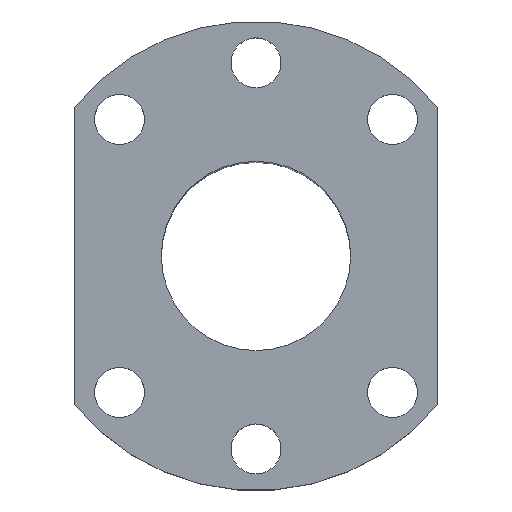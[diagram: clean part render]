
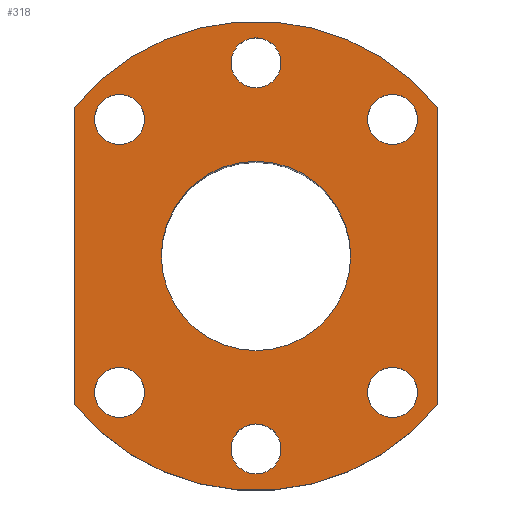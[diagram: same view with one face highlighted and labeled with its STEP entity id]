
A CAD part, top view. The second image highlights one B-rep face of the part: STEP entity #318.
In plain terms, the highlighted planar face has unit normal (0, 0, 1).
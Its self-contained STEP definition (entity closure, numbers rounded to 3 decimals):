
#23=FACE_BOUND('',#73,.T.);
#24=FACE_BOUND('',#74,.T.);
#25=FACE_BOUND('',#75,.T.);
#26=FACE_BOUND('',#76,.T.);
#27=FACE_BOUND('',#77,.T.);
#28=FACE_BOUND('',#78,.T.);
#29=FACE_BOUND('',#79,.T.);
#34=PLANE('',#379);
#49=FACE_OUTER_BOUND('',#72,.T.);
#72=EDGE_LOOP('',(#277,#278,#279,#280));
#73=EDGE_LOOP('',(#281,#282));
#74=EDGE_LOOP('',(#283,#284));
#75=EDGE_LOOP('',(#285,#286));
#76=EDGE_LOOP('',(#287,#288));
#77=EDGE_LOOP('',(#289,#290));
#78=EDGE_LOOP('',(#291,#292));
#79=EDGE_LOOP('',(#293));
#92=LINE('',#559,#108);
#95=LINE('',#566,#111);
#108=VECTOR('',#468,10.);
#111=VECTOR('',#477,10.);
#112=CIRCLE('',#340,3.3);
#113=CIRCLE('',#341,3.3);
#115=CIRCLE('',#344,3.3);
#116=CIRCLE('',#345,3.3);
#118=CIRCLE('',#348,3.3);
#119=CIRCLE('',#349,3.3);
#121=CIRCLE('',#352,3.3);
#122=CIRCLE('',#353,3.3);
#124=CIRCLE('',#356,3.3);
#125=CIRCLE('',#357,3.3);
#127=CIRCLE('',#360,3.3);
#128=CIRCLE('',#361,3.3);
#130=CIRCLE('',#364,12.5);
#136=CIRCLE('',#374,31.);
#137=CIRCLE('',#377,31.);
#138=VERTEX_POINT('',#482);
#139=VERTEX_POINT('',#483);
#141=VERTEX_POINT('',#490);
#142=VERTEX_POINT('',#491);
#144=VERTEX_POINT('',#498);
#145=VERTEX_POINT('',#499);
#147=VERTEX_POINT('',#506);
#148=VERTEX_POINT('',#507);
#150=VERTEX_POINT('',#514);
#151=VERTEX_POINT('',#515);
#153=VERTEX_POINT('',#522);
#154=VERTEX_POINT('',#523);
#156=VERTEX_POINT('',#530);
#164=VERTEX_POINT('',#552);
#165=VERTEX_POINT('',#554);
#166=VERTEX_POINT('',#558);
#167=VERTEX_POINT('',#562);
#168=EDGE_CURVE('',#138,#139,#112,.T.);
#169=EDGE_CURVE('',#139,#138,#113,.T.);
#172=EDGE_CURVE('',#141,#142,#115,.T.);
#173=EDGE_CURVE('',#142,#141,#116,.T.);
#176=EDGE_CURVE('',#144,#145,#118,.T.);
#177=EDGE_CURVE('',#145,#144,#119,.T.);
#180=EDGE_CURVE('',#147,#148,#121,.T.);
#181=EDGE_CURVE('',#148,#147,#122,.T.);
#184=EDGE_CURVE('',#150,#151,#124,.T.);
#185=EDGE_CURVE('',#151,#150,#125,.T.);
#188=EDGE_CURVE('',#153,#154,#127,.T.);
#189=EDGE_CURVE('',#154,#153,#128,.T.);
#192=EDGE_CURVE('',#156,#156,#130,.T.);
#203=EDGE_CURVE('',#165,#164,#136,.T.);
#205=EDGE_CURVE('',#166,#165,#92,.T.);
#207=EDGE_CURVE('',#167,#166,#137,.T.);
#209=EDGE_CURVE('',#164,#167,#95,.T.);
#277=ORIENTED_EDGE('',*,*,#209,.T.);
#278=ORIENTED_EDGE('',*,*,#207,.T.);
#279=ORIENTED_EDGE('',*,*,#205,.T.);
#280=ORIENTED_EDGE('',*,*,#203,.T.);
#281=ORIENTED_EDGE('',*,*,#168,.T.);
#282=ORIENTED_EDGE('',*,*,#169,.T.);
#283=ORIENTED_EDGE('',*,*,#172,.T.);
#284=ORIENTED_EDGE('',*,*,#173,.T.);
#285=ORIENTED_EDGE('',*,*,#176,.T.);
#286=ORIENTED_EDGE('',*,*,#177,.T.);
#287=ORIENTED_EDGE('',*,*,#180,.T.);
#288=ORIENTED_EDGE('',*,*,#181,.T.);
#289=ORIENTED_EDGE('',*,*,#184,.T.);
#290=ORIENTED_EDGE('',*,*,#185,.T.);
#291=ORIENTED_EDGE('',*,*,#188,.T.);
#292=ORIENTED_EDGE('',*,*,#189,.T.);
#293=ORIENTED_EDGE('',*,*,#192,.T.);
#318=ADVANCED_FACE('',(#49,#23,#24,#25,#26,#27,#28,#29),#34,.T.);
#340=AXIS2_PLACEMENT_3D('',#484,#384,#385);
#341=AXIS2_PLACEMENT_3D('',#485,#386,#387);
#344=AXIS2_PLACEMENT_3D('',#492,#393,#394);
#345=AXIS2_PLACEMENT_3D('',#493,#395,#396);
#348=AXIS2_PLACEMENT_3D('',#500,#402,#403);
#349=AXIS2_PLACEMENT_3D('',#501,#404,#405);
#352=AXIS2_PLACEMENT_3D('',#508,#411,#412);
#353=AXIS2_PLACEMENT_3D('',#509,#413,#414);
#356=AXIS2_PLACEMENT_3D('',#516,#420,#421);
#357=AXIS2_PLACEMENT_3D('',#517,#422,#423);
#360=AXIS2_PLACEMENT_3D('',#524,#429,#430);
#361=AXIS2_PLACEMENT_3D('',#525,#431,#432);
#364=AXIS2_PLACEMENT_3D('',#531,#438,#439);
#374=AXIS2_PLACEMENT_3D('',#555,#463,#464);
#377=AXIS2_PLACEMENT_3D('',#563,#472,#473);
#379=AXIS2_PLACEMENT_3D('',#567,#478,#479);
#384=DIRECTION('center_axis',(0.,0.,-1.));
#385=DIRECTION('ref_axis',(1.,0.,0.));
#386=DIRECTION('center_axis',(0.,0.,-1.));
#387=DIRECTION('ref_axis',(1.,0.,0.));
#393=DIRECTION('center_axis',(0.,0.,-1.));
#394=DIRECTION('ref_axis',(1.,0.,0.));
#395=DIRECTION('center_axis',(0.,0.,-1.));
#396=DIRECTION('ref_axis',(1.,0.,0.));
#402=DIRECTION('center_axis',(0.,0.,-1.));
#403=DIRECTION('ref_axis',(1.,0.,0.));
#404=DIRECTION('center_axis',(0.,0.,-1.));
#405=DIRECTION('ref_axis',(1.,0.,0.));
#411=DIRECTION('center_axis',(0.,0.,-1.));
#412=DIRECTION('ref_axis',(1.,0.,0.));
#413=DIRECTION('center_axis',(0.,0.,-1.));
#414=DIRECTION('ref_axis',(1.,0.,0.));
#420=DIRECTION('center_axis',(0.,0.,-1.));
#421=DIRECTION('ref_axis',(1.,0.,0.));
#422=DIRECTION('center_axis',(0.,0.,-1.));
#423=DIRECTION('ref_axis',(1.,0.,0.));
#429=DIRECTION('center_axis',(0.,0.,-1.));
#430=DIRECTION('ref_axis',(1.,0.,0.));
#431=DIRECTION('center_axis',(0.,0.,-1.));
#432=DIRECTION('ref_axis',(1.,0.,0.));
#438=DIRECTION('center_axis',(0.,0.,-1.));
#439=DIRECTION('ref_axis',(1.,0.,0.));
#463=DIRECTION('center_axis',(0.,0.,1.));
#464=DIRECTION('ref_axis',(0.774,0.633,0.));
#468=DIRECTION('',(0.,1.,0.));
#472=DIRECTION('center_axis',(0.,0.,1.));
#473=DIRECTION('ref_axis',(-0.774,-0.633,0.));
#477=DIRECTION('',(0.,-1.,0.));
#478=DIRECTION('center_axis',(0.,0.,1.));
#479=DIRECTION('ref_axis',(1.,0.,0.));
#482=CARTESIAN_POINT('',(3.3,25.5,12.));
#483=CARTESIAN_POINT('',(-3.3,25.5,12.));
#484=CARTESIAN_POINT('Origin',(0.,25.5,12.));
#485=CARTESIAN_POINT('Origin',(0.,25.5,12.));
#490=CARTESIAN_POINT('',(21.331,-18.031,12.));
#491=CARTESIAN_POINT('',(14.731,-18.031,12.));
#492=CARTESIAN_POINT('Origin',(18.031,-18.031,12.));
#493=CARTESIAN_POINT('Origin',(18.031,-18.031,12.));
#498=CARTESIAN_POINT('',(-14.731,-18.031,12.));
#499=CARTESIAN_POINT('',(-21.331,-18.031,12.));
#500=CARTESIAN_POINT('Origin',(-18.031,-18.031,12.));
#501=CARTESIAN_POINT('Origin',(-18.031,-18.031,12.));
#506=CARTESIAN_POINT('',(-14.731,18.031,12.));
#507=CARTESIAN_POINT('',(-21.331,18.031,12.));
#508=CARTESIAN_POINT('Origin',(-18.031,18.031,12.));
#509=CARTESIAN_POINT('Origin',(-18.031,18.031,12.));
#514=CARTESIAN_POINT('',(21.331,18.031,12.));
#515=CARTESIAN_POINT('',(14.731,18.031,12.));
#516=CARTESIAN_POINT('Origin',(18.031,18.031,12.));
#517=CARTESIAN_POINT('Origin',(18.031,18.031,12.));
#522=CARTESIAN_POINT('',(3.3,-25.5,12.));
#523=CARTESIAN_POINT('',(-3.3,-25.5,12.));
#524=CARTESIAN_POINT('Origin',(0.,-25.5,12.));
#525=CARTESIAN_POINT('Origin',(0.,-25.5,12.));
#530=CARTESIAN_POINT('',(-12.5,0.,12.));
#531=CARTESIAN_POINT('Origin',(0.,0.,12.));
#552=CARTESIAN_POINT('',(-24.,19.621,12.));
#554=CARTESIAN_POINT('',(24.,19.621,12.));
#555=CARTESIAN_POINT('Origin',(0.,0.,12.));
#558=CARTESIAN_POINT('',(24.,-19.621,12.));
#559=CARTESIAN_POINT('',(24.,-19.621,12.));
#562=CARTESIAN_POINT('',(-24.,-19.621,12.));
#563=CARTESIAN_POINT('Origin',(0.,0.,12.));
#566=CARTESIAN_POINT('',(-24.,19.621,12.));
#567=CARTESIAN_POINT('Origin',(0.,0.,
12.));
